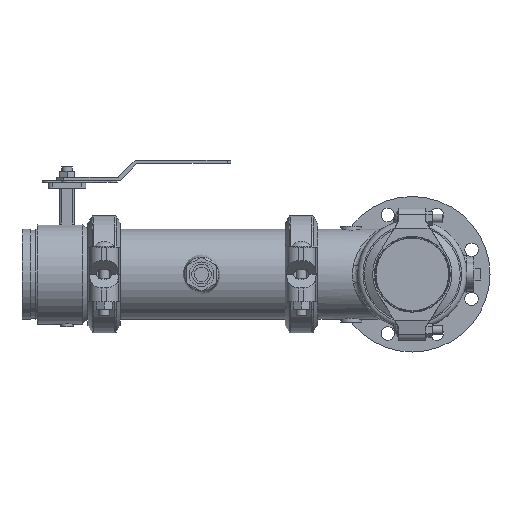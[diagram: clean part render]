
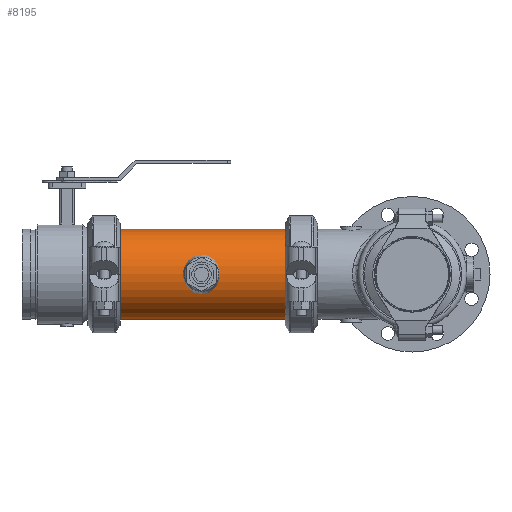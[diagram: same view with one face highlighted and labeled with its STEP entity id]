
A CAD part, left-side view. The second image highlights one B-rep face of the part: STEP entity #8195.
In plain terms, the highlighted cylindrical face has radius 84.138 mm (diameter 168.275 mm), a full revolution.
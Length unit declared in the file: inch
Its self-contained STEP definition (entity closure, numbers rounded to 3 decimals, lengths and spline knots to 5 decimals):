
#715=FACE_OUTER_BOUND('',#1222,.T.);
#1222=EDGE_LOOP('',(#6049,#6050,#6051,#6052,#6053,#6054));
#1771=CIRCLE('',#9044,3.3125);
#1772=CIRCLE('',#9045,3.3125);
#1773=CIRCLE('',#9047,3.3125);
#1774=CIRCLE('',#9048,3.3125);
#2233=LINE('',#14143,#2818);
#2818=VECTOR('',#10624,3.3125);
#3522=VERTEX_POINT('',#14134);
#3523=VERTEX_POINT('',#14135);
#3524=VERTEX_POINT('',#14139);
#3525=VERTEX_POINT('',#14140);
#4437=EDGE_CURVE('',#3522,#3523,#1771,.T.);
#4438=EDGE_CURVE('',#3523,#3522,#1772,.T.);
#4439=EDGE_CURVE('',#3524,#3525,#1773,.T.);
#4440=EDGE_CURVE('',#3525,#3524,#1774,.T.);
#4441=EDGE_CURVE('',#3525,#3523,#2233,.T.);
#6049=ORIENTED_EDGE('',*,*,#4439,.F.);
#6050=ORIENTED_EDGE('',*,*,#4440,.F.);
#6051=ORIENTED_EDGE('',*,*,#4441,.T.);
#6052=ORIENTED_EDGE('',*,*,#4438,.T.);
#6053=ORIENTED_EDGE('',*,*,#4437,.T.);
#6054=ORIENTED_EDGE('',*,*,#4441,.F.);
#7468=CYLINDRICAL_SURFACE('',#9046,3.3125);
#8195=ADVANCED_FACE('',(#715),#7468,.T.);
#9044=AXIS2_PLACEMENT_3D('',#14136,#10614,#10615);
#9045=AXIS2_PLACEMENT_3D('',#14137,#10616,#10617);
#9046=AXIS2_PLACEMENT_3D('',#14138,#10618,#10619);
#9047=AXIS2_PLACEMENT_3D('',#14141,#10620,#10621);
#9048=AXIS2_PLACEMENT_3D('',#14142,#10622,#10623);
#10614=DIRECTION('center_axis',(0.,-1.,0.));
#10615=DIRECTION('ref_axis',(1.,0.,0.));
#10616=DIRECTION('center_axis',(0.,-1.,0.));
#10617=DIRECTION('ref_axis',(1.,0.,0.));
#10618=DIRECTION('center_axis',(0.,-1.,0.));
#10619=DIRECTION('ref_axis',(1.,0.,0.));
#10620=DIRECTION('center_axis',(0.,-1.,0.));
#10621=DIRECTION('ref_axis',(1.,0.,0.));
#10622=DIRECTION('center_axis',(0.,-1.,0.));
#10623=DIRECTION('ref_axis',(1.,0.,0.));
#10624=DIRECTION('',(0.,1.,0.));
#14134=CARTESIAN_POINT('',(3.3125,6.09,0.));
#14135=CARTESIAN_POINT('',(-3.3125,6.09,0.));
#14136=CARTESIAN_POINT('Origin',(0.,6.09,0.));
#14137=CARTESIAN_POINT('Origin',(0.,6.09,0.));
#14138=CARTESIAN_POINT('Origin',(0.,0.,
0.));
#14139=CARTESIAN_POINT('',(3.3125,-6.09,0.));
#14140=CARTESIAN_POINT('',(-3.3125,-6.09,0.));
#14141=CARTESIAN_POINT('Origin',(0.,-6.09,0.));
#14142=CARTESIAN_POINT('Origin',(0.,-6.09,0.));
#14143=CARTESIAN_POINT('',(-3.3125,0.,0.));
